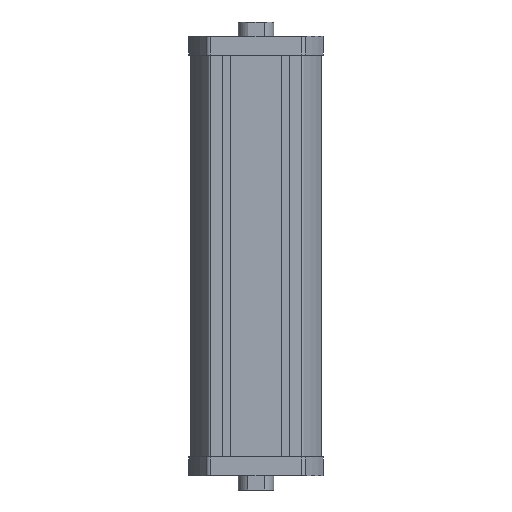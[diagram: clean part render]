
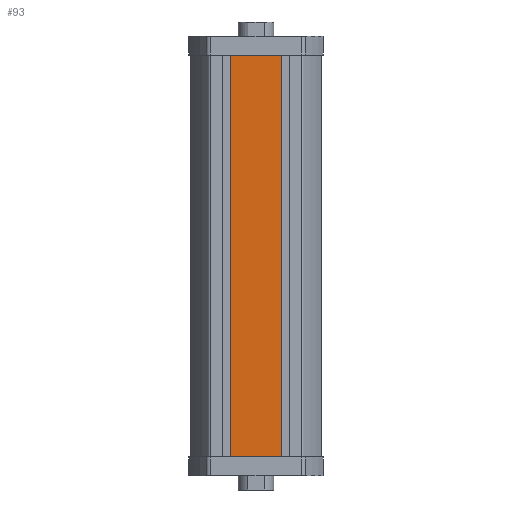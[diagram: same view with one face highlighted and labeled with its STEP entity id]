
A CAD part, left-side view. The second image highlights one B-rep face of the part: STEP entity #93.
In plain terms, the highlighted planar face has unit normal (-1, 0, 0).
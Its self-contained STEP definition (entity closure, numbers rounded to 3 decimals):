
#67 = EDGE_CURVE ( 'NONE', #86, #68, #913, .T. ) ;
#68 = VERTEX_POINT ( 'NONE', #909 ) ;
#69 = ORIENTED_EDGE ( 'NONE', *, *, #70, .F. ) ;
#70 = EDGE_CURVE ( 'NONE', #71, #68, #908, .T. ) ;
#71 = VERTEX_POINT ( 'NONE', #904 ) ;
#72 = ORIENTED_EDGE ( 'NONE', *, *, #73, .F. ) ;
#73 = EDGE_CURVE ( 'NONE', #89, #71, #903, .T. ) ;
#74 = ORIENTED_EDGE ( 'NONE', *, *, #88, .T. ) ;
#86 = VERTEX_POINT ( 'NONE', #938 ) ;
#88 = EDGE_CURVE ( 'NONE', #89, #86, #937, .T. ) ;
#89 = VERTEX_POINT ( 'NONE', #933 ) ;
#93 = ADVANCED_FACE ( 'NONE', ( #928 ), #992, .F. ) ;
#94 = EDGE_LOOP ( 'NONE', ( #147, #69, #72, #74 ) ) ;
#147 = ORIENTED_EDGE ( 'NONE', *, *, #67, .T. ) ;
#900 = DIRECTION ( 'NONE',  ( 0., -1., 0. ) ) ;
#901 = VECTOR ( 'NONE', #900, 1000. ) ;
#902 = CARTESIAN_POINT ( 'NONE',  ( -11.582, 21.755, 170. ) ) ;
#903 = LINE ( 'NONE', #902, #901 ) ;
#904 = CARTESIAN_POINT ( 'NONE',  ( -11.582, -21.755, 170. ) ) ;
#905 = DIRECTION ( 'NONE',  ( 0., 0., -1. ) ) ;
#906 = VECTOR ( 'NONE', #905, 1000. ) ;
#907 = CARTESIAN_POINT ( 'NONE',  ( -11.582, -21.755, 170. ) ) ;
#908 = LINE ( 'NONE', #907, #906 ) ;
#909 = CARTESIAN_POINT ( 'NONE',  ( -11.582, -21.755, -170. ) ) ;
#910 = DIRECTION ( 'NONE',  ( 0., -1., 0. ) ) ;
#911 = VECTOR ( 'NONE', #910, 1000. ) ;
#912 = CARTESIAN_POINT ( 'NONE',  ( -11.582, 21.755, -170. ) ) ;
#913 = LINE ( 'NONE', #912, #911 ) ;
#928 = FACE_OUTER_BOUND ( 'NONE', #94, .T. ) ;
#933 = CARTESIAN_POINT ( 'NONE',  ( -11.582, 21.755, 170. ) ) ;
#934 = DIRECTION ( 'NONE',  ( 0., 0., -1. ) ) ;
#935 = VECTOR ( 'NONE', #934, 1000. ) ;
#936 = CARTESIAN_POINT ( 'NONE',  ( -11.582, 21.755, 170. ) ) ;
#937 = LINE ( 'NONE', #936, #935 ) ;
#938 = CARTESIAN_POINT ( 'NONE',  ( -11.582, 21.755, -170. ) ) ;
#988 = DIRECTION ( 'NONE',  ( 0., 0., -1. ) ) ;
#989 = DIRECTION ( 'NONE',  ( 1., 0., 0. ) ) ;
#990 = CARTESIAN_POINT ( 'NONE',  ( -11.582, 21.755, 170. ) ) ;
#991 = AXIS2_PLACEMENT_3D ( 'NONE', #990, #989, #988 ) ;
#992 = PLANE ( 'NONE',  #991 ) ;
